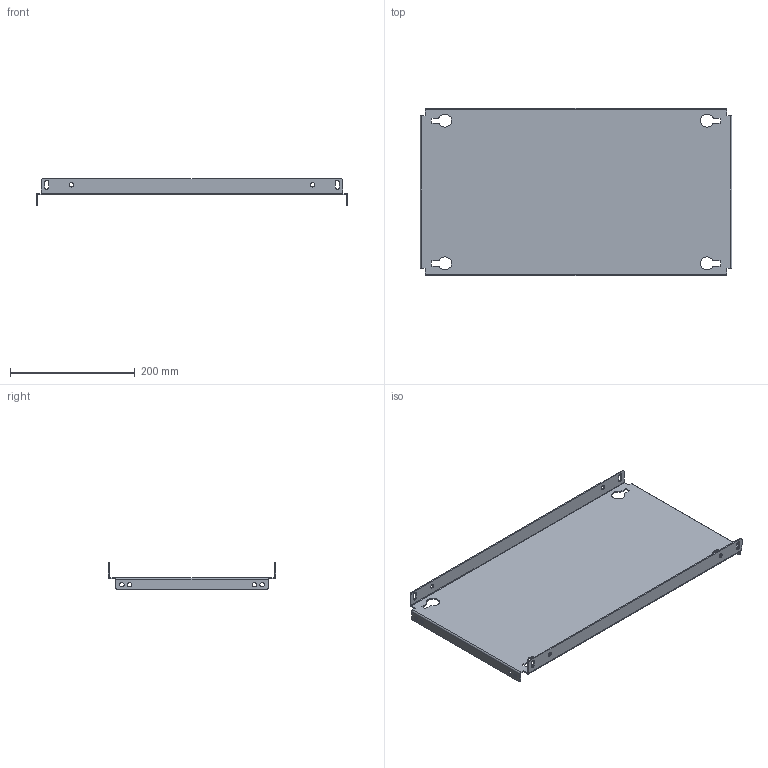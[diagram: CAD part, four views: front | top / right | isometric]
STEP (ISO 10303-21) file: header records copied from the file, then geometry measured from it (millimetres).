
FILE_DESCRIPTION (( 'STEP AP203' ), '1' );
FILE_NAME ('R5PPS3006.STEP', '2021-12-20T06:51:22', ( '' ), ( '' ), 'SwSTEP 2.0', 'SolidWorks 2020', '' );
FILE_SCHEMA (( 'CONFIG_CONTROL_DESIGN' ));
Length unit declared in the file: millimetre
Products named in the file (1): R5PPS3006
Bounding box: 500 x 269 x 43 mm (x, y, z)
Volume: 324138.5 mm3; surface area: 329041.4 mm2
Topology: 1 solids, 1 shells, 132 faces, 358 edges, 228 vertices
Faces by surface type: cylinder 74, plane 58
Entity records: 4331 total; most frequent: DIRECTION 772, CARTESIAN_POINT 719, ORIENTED_EDGE 716, EDGE_CURVE 358, AXIS2_PLACEMENT_3D 281, VERTEX_POINT 228, LINE 210, VECTOR 210
